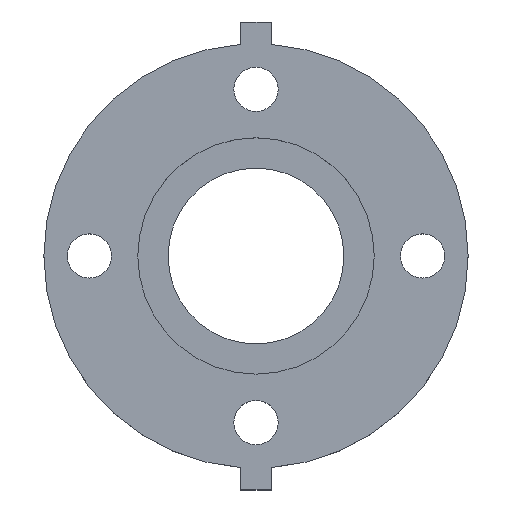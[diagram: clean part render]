
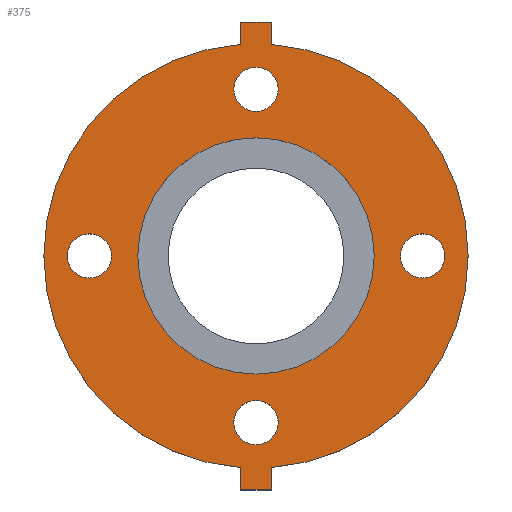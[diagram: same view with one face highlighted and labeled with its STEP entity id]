
A CAD part, top view. The second image highlights one B-rep face of the part: STEP entity #375.
In plain terms, the highlighted planar face has unit normal (0, 0, 1).
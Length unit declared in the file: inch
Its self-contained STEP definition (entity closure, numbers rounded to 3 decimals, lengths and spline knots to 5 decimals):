
#59=FACE_BOUND('',#120,.T.);
#60=FACE_BOUND('',#121,.T.);
#61=FACE_BOUND('',#122,.T.);
#62=FACE_BOUND('',#123,.T.);
#63=FACE_BOUND('',#124,.T.);
#71=CIRCLE('',#408,3.5);
#72=CIRCLE('',#413,0.365);
#73=CIRCLE('',#415,0.365);
#74=CIRCLE('',#417,0.365);
#75=CIRCLE('',#419,0.365);
#78=CIRCLE('',#425,1.95);
#79=CIRCLE('',#427,3.5);
#96=FACE_OUTER_BOUND('',#119,.T.);
#119=EDGE_LOOP('',(#318,#319,#320,#321,#322,#323,#324,#325));
#120=EDGE_LOOP('',(#326));
#121=EDGE_LOOP('',(#327));
#122=EDGE_LOOP('',(#328));
#123=EDGE_LOOP('',(#329));
#124=EDGE_LOOP('',(#330));
#126=LINE('',#568,#152);
#132=LINE('',#580,#158);
#134=LINE('',#583,#160);
#139=LINE('',#610,#165);
#143=LINE('',#617,#169);
#144=LINE('',#619,#170);
#152=VECTOR('',#447,0.3937);
#158=VECTOR('',#455,0.3937);
#160=VECTOR('',#459,0.3937);
#165=VECTOR('',#486,0.3937);
#169=VECTOR('',#492,0.3937);
#170=VECTOR('',#495,0.3937);
#177=VERTEX_POINT('',#564);
#179=VERTEX_POINT('',#567);
#182=VERTEX_POINT('',#574);
#184=VERTEX_POINT('',#578);
#194=VERTEX_POINT('',#605);
#195=VERTEX_POINT('',#609);
#196=VERTEX_POINT('',#613);
#197=VERTEX_POINT('',#615);
#198=VERTEX_POINT('',#621);
#199=VERTEX_POINT('',#625);
#200=VERTEX_POINT('',#629);
#201=VERTEX_POINT('',#633);
#204=VERTEX_POINT('',#644);
#206=EDGE_CURVE('',#177,#179,#126,.T.);
#212=EDGE_CURVE('',#184,#182,#132,.T.);
#214=EDGE_CURVE('',#179,#184,#134,.T.);
#225=EDGE_CURVE('',#194,#182,#71,.T.);
#227=EDGE_CURVE('',#195,#194,#139,.T.);
#231=EDGE_CURVE('',#196,#197,#143,.T.);
#232=EDGE_CURVE('',#197,#195,#144,.T.);
#234=EDGE_CURVE('',#198,#198,#72,.T.);
#236=EDGE_CURVE('',#199,#199,#73,.T.);
#238=EDGE_CURVE('',#200,#200,#74,.T.);
#240=EDGE_CURVE('',#201,#201,#75,.T.);
#245=EDGE_CURVE('',#204,#204,#78,.T.);
#246=EDGE_CURVE('',#177,#196,#79,.T.);
#318=ORIENTED_EDGE('',*,*,#246,.T.);
#319=ORIENTED_EDGE('',*,*,#231,.T.);
#320=ORIENTED_EDGE('',*,*,#232,.T.);
#321=ORIENTED_EDGE('',*,*,#227,.T.);
#322=ORIENTED_EDGE('',*,*,#225,.T.);
#323=ORIENTED_EDGE('',*,*,#212,.F.);
#324=ORIENTED_EDGE('',*,*,#214,.F.);
#325=ORIENTED_EDGE('',*,*,#206,.F.);
#326=ORIENTED_EDGE('',*,*,#234,.T.);
#327=ORIENTED_EDGE('',*,*,#236,.T.);
#328=ORIENTED_EDGE('',*,*,#238,.T.);
#329=ORIENTED_EDGE('',*,*,#240,.T.);
#330=ORIENTED_EDGE('',*,*,#245,.T.);
#339=PLANE('',#428);
#375=ADVANCED_FACE('',(#96,#59,#60,#61,#62,#63),#339,.T.);
#408=AXIS2_PLACEMENT_3D('',#606,#481,#482);
#413=AXIS2_PLACEMENT_3D('',#623,#499,#500);
#415=AXIS2_PLACEMENT_3D('',#627,#504,#505);
#417=AXIS2_PLACEMENT_3D('',#631,#509,#510);
#419=AXIS2_PLACEMENT_3D('',#635,#514,#515);
#425=AXIS2_PLACEMENT_3D('',#646,#528,#529);
#427=AXIS2_PLACEMENT_3D('',#648,#532,#533);
#428=AXIS2_PLACEMENT_3D('',#649,#534,#535);
#447=DIRECTION('',(0.,-1.,0.));
#455=DIRECTION('',(0.,1.,0.));
#459=DIRECTION('',(-1.,0.,0.));
#481=DIRECTION('center_axis',(0.,0.,1.));
#482=DIRECTION('ref_axis',(-1.,0.,0.));
#486=DIRECTION('',(0.,-1.,0.));
#492=DIRECTION('',(0.,1.,0.));
#495=DIRECTION('',(-1.,0.,0.));
#499=DIRECTION('center_axis',(0.,0.,-1.));
#500=DIRECTION('ref_axis',(0.,1.,0.));
#504=DIRECTION('center_axis',(0.,0.,-1.));
#505=DIRECTION('ref_axis',(1.,0.,0.));
#509=DIRECTION('center_axis',(0.,0.,-1.));
#510=DIRECTION('ref_axis',(0.,-1.,0.));
#514=DIRECTION('center_axis',(0.,0.,-1.));
#515=DIRECTION('ref_axis',(-1.,0.,0.));
#528=DIRECTION('center_axis',(0.,0.,-1.));
#529=DIRECTION('ref_axis',(-1.,0.,0.));
#532=DIRECTION('center_axis',(0.,0.,1.));
#533=DIRECTION('ref_axis',(-1.,0.,0.));
#534=DIRECTION('center_axis',(0.,0.,1.));
#535=DIRECTION('ref_axis',(1.,0.,0.));
#564=CARTESIAN_POINT('',(0.25,-3.49106,0.88));
#567=CARTESIAN_POINT('',(0.25,-3.86,0.88));
#568=CARTESIAN_POINT('',(0.25,-3.86,0.88));
#574=CARTESIAN_POINT('',(-0.25,-3.49106,0.88));
#578=CARTESIAN_POINT('',(-0.25,-3.86,0.88));
#580=CARTESIAN_POINT('',(-0.25,-3.215,0.88));
#583=CARTESIAN_POINT('',(-0.25,-3.86,0.88));
#605=CARTESIAN_POINT('',(-0.25,3.49106,0.88));
#606=CARTESIAN_POINT('Origin',(0.,0.,0.88));
#609=CARTESIAN_POINT('',(-0.25,3.86,0.88));
#610=CARTESIAN_POINT('',(-0.25,3.215,0.88));
#613=CARTESIAN_POINT('',(0.25,3.49106,0.88));
#615=CARTESIAN_POINT('',(0.25,3.86,0.88));
#617=CARTESIAN_POINT('',(0.25,3.86,0.88));
#619=CARTESIAN_POINT('',(-0.25,3.86,0.88));
#621=CARTESIAN_POINT('',(2.75,-0.365,0.88));
#623=CARTESIAN_POINT('Origin',(2.75,0.,0.88));
#625=CARTESIAN_POINT('',(-0.365,-2.75,0.88));
#627=CARTESIAN_POINT('Origin',(0.,-2.75,0.88));
#629=CARTESIAN_POINT('',(-2.75,0.365,0.88));
#631=CARTESIAN_POINT('Origin',(-2.75,0.,0.88));
#633=CARTESIAN_POINT('',(0.365,2.75,0.88));
#635=CARTESIAN_POINT('Origin',(0.,2.75,0.88));
#644=CARTESIAN_POINT('',(1.95,0.,0.88));
#646=CARTESIAN_POINT('Origin',(0.,0.,0.88));
#648=CARTESIAN_POINT('Origin',(0.,0.,0.88));
#649=CARTESIAN_POINT('Origin',(0.,0.,
0.88));
